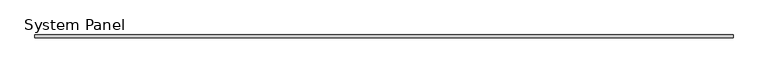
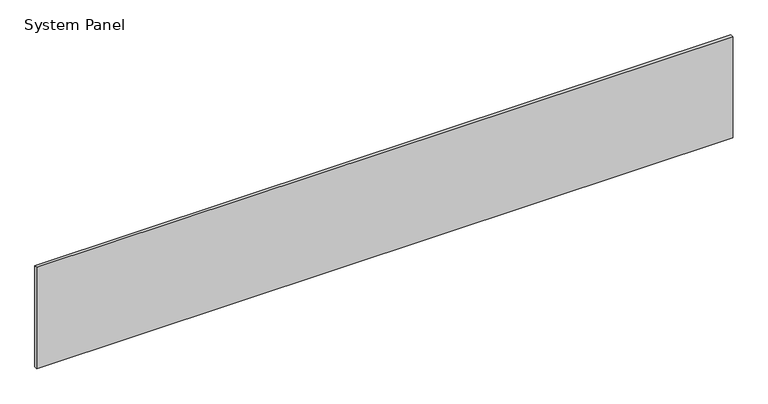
"""IFC4 building model written with IfcOpenShell, lengths in millimetres: plate geometry, システム パネル : System Panel."""

from ifc_helpers import new_model, si_unit, origin, origin_with_axes, place, context, project, spatial, polyline, outline, extrude, source, transform, mapped, element, save


def system_panel_5692cc67(model_context):
    return source(origin(), model_context, "Body", "SweptSolid", [
        extrude(outline(polyline([(2925.0, -12.5), (-2925.0, -12.5), (-2925.0, 12.5), (2925.0, 12.5), (2925.0, -12.5)])), origin_with_axes(), (0.0, 0.0, 1.0), 900.0),
    ])


if __name__ == "__main__":
    model = new_model("IFC4")
    model_context = context("Model", 3, world=origin())
    ifc_project = project(units=[si_unit("LENGTHUNIT", "METRE", prefix="MILLI")], contexts=[model_context])
    site = spatial("IfcSite", under=ifc_project)
    building = spatial("IfcBuilding", under=site)
    placement = place(None, origin())
    system_panel_shape = system_panel_5692cc67(model_context)
    element("IfcPlate", 1, ObjectType="システム パネル : System Panel", at=placement, inside=building, context=model_context, shape_type="MappedRepresentation", body=[
        mapped(system_panel_shape, transform((0.0, 0.0, 0.0), x_axis=(1.0, 0.0, 0.0), y_axis=(0.0, 1.0, 0.0), z_axis=(0.0, 0.0, 1.0))),
    ])
    save(model, "model.ifc")
